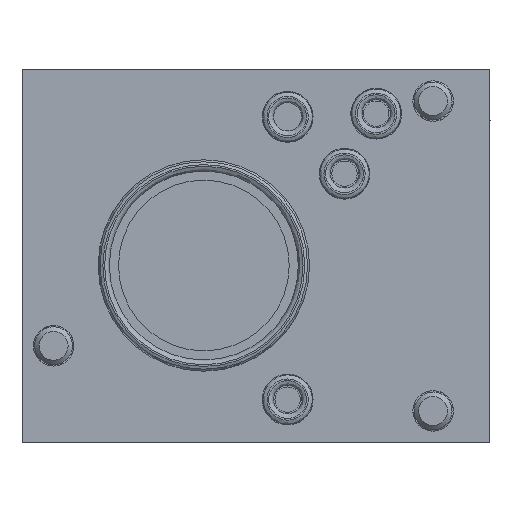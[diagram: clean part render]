
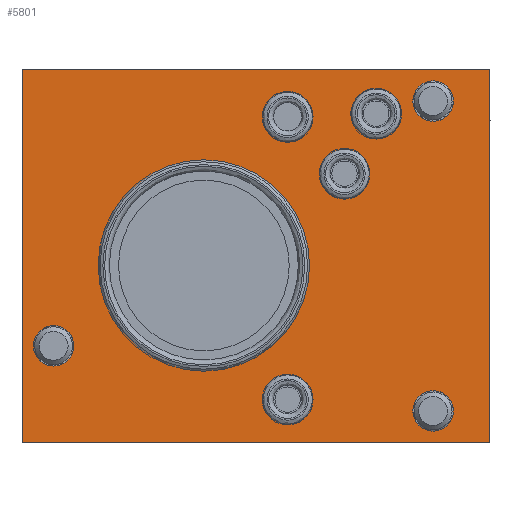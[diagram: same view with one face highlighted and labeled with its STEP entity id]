
A CAD part, left-side view. The second image highlights one B-rep face of the part: STEP entity #5801.
In plain terms, the highlighted planar face has unit normal (-1, 0, 0).
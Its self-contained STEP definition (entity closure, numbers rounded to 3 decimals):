
#650 = DIRECTION ( 'NONE',  ( 0., -1., 0. ) ) ;
#1114 = DIRECTION ( 'NONE',  ( -1., 0., 0. ) ) ;
#1461 = ORIENTED_EDGE ( 'NONE', *, *, #38656, .F. ) ;
#1669 = DIRECTION ( 'NONE',  ( 0., 0., -1. ) ) ;
#1727 = EDGE_LOOP ( 'NONE', ( #28879 ) ) ;
#1892 = ORIENTED_EDGE ( 'NONE', *, *, #23868, .F. ) ;
#2186 = EDGE_CURVE ( 'NONE', #8873, #8873, #32458, .T. ) ;
#2616 = VERTEX_POINT ( 'NONE', #10388 ) ;
#2696 = DIRECTION ( 'NONE',  ( -1., 0., 0. ) ) ;
#3261 = EDGE_CURVE ( 'NONE', #40553, #40553, #22028, .T. ) ;
#3312 = EDGE_LOOP ( 'NONE', ( #29551 ) ) ;
#3558 = CARTESIAN_POINT ( 'NONE',  ( -47., -5., 15.3 ) ) ;
#3704 = FACE_BOUND ( 'NONE', #1727, .T. ) ;
#4145 = LINE ( 'NONE', #43549, #6827 ) ;
#4629 = EDGE_CURVE ( 'NONE', #27688, #26770, #4145, .T. ) ;
#4742 = DIRECTION ( 'NONE',  ( 1., 0., 0. ) ) ;
#4772 = CARTESIAN_POINT ( 'NONE',  ( -47., 0., 59. ) ) ;
#5189 = ORIENTED_EDGE ( 'NONE', *, *, #2186, .T. ) ;
#5621 = CARTESIAN_POINT ( 'NONE',  ( -47., -56., 52. ) ) ;
#5801 = ADVANCED_FACE ( 'NONE', ( #17603, #31409, #28822, #31631, #31877, #42891, #24388, #3704, #6758 ), #7003, .F. ) ;
#5974 = CARTESIAN_POINT ( 'NONE',  ( -47., -42., 6.8 ) ) ;
#6506 = CARTESIAN_POINT ( 'NONE',  ( -47., -45.15, 28. ) ) ;
#6657 = AXIS2_PLACEMENT_3D ( 'NONE', #3558, #17917, #42517 ) ;
#6758 = FACE_OUTER_BOUND ( 'NONE', #33814, .T. ) ;
#6827 = VECTOR ( 'NONE', #15214, 1000. ) ;
#6922 = DIRECTION ( 'NONE',  ( 0., -1., 0. ) ) ;
#7003 = PLANE ( 'NONE',  #38561 ) ;
#7134 = EDGE_CURVE ( 'NONE', #27172, #27172, #36349, .T. ) ;
#7388 = EDGE_CURVE ( 'NONE', #20371, #20371, #14681, .T. ) ;
#7763 = AXIS2_PLACEMENT_3D ( 'NONE', #46304, #42787, #28953 ) ;
#7791 = EDGE_LOOP ( 'NONE', ( #35283 ) ) ;
#8873 = VERTEX_POINT ( 'NONE', #33742 ) ;
#9197 = VERTEX_POINT ( 'NONE', #38772 ) ;
#10388 = CARTESIAN_POINT ( 'NONE',  ( -47., -74., 59. ) ) ;
#11214 = CARTESIAN_POINT ( 'NONE',  ( -47., 0., 0. ) ) ;
#11492 = DIRECTION ( 'NONE',  ( -1., 0., 0. ) ) ;
#11638 = CARTESIAN_POINT ( 'NONE',  ( -47., 0., 59. ) ) ;
#11682 = CARTESIAN_POINT ( 'NONE',  ( -47., -74., 59. ) ) ;
#12469 = AXIS2_PLACEMENT_3D ( 'NONE', #5621, #41088, #30725 ) ;
#14137 = DIRECTION ( 'NONE',  ( -1., 0., 0. ) ) ;
#14681 = CIRCLE ( 'NONE', #31118, 3.9 ) ;
#15214 = DIRECTION ( 'NONE',  ( 0., -1., 0. ) ) ;
#16148 = AXIS2_PLACEMENT_3D ( 'NONE', #21600, #11492, #22058 ) ;
#16194 = CIRCLE ( 'NONE', #42385, 3.9 ) ;
#17337 = EDGE_LOOP ( 'NONE', ( #23203 ) ) ;
#17603 = FACE_BOUND ( 'NONE', #17337, .T. ) ;
#17917 = DIRECTION ( 'NONE',  ( 1., 0., 0. ) ) ;
#18982 = AXIS2_PLACEMENT_3D ( 'NONE', #39969, #4742, #1669 ) ;
#19124 = DIRECTION ( 'NONE',  ( 0., -1., 0. ) ) ;
#19180 = ORIENTED_EDGE ( 'NONE', *, *, #45587, .T. ) ;
#20070 = VERTEX_POINT ( 'NONE', #34832 ) ;
#20258 = EDGE_CURVE ( 'NONE', #20070, #20070, #45575, .T. ) ;
#20371 = VERTEX_POINT ( 'NONE', #34677 ) ;
#21600 = CARTESIAN_POINT ( 'NONE',  ( -47., -28.75, 28. ) ) ;
#21843 = DIRECTION ( 'NONE',  ( 0., -1., 0. ) ) ;
#22028 = CIRCLE ( 'NONE', #7763, 3.2 ) ;
#22058 = DIRECTION ( 'NONE',  ( 0., -1., 0. ) ) ;
#22158 = EDGE_CURVE ( 'NONE', #45379, #45379, #36579, .T. ) ;
#23203 = ORIENTED_EDGE ( 'NONE', *, *, #7388, .F. ) ;
#23868 = EDGE_CURVE ( 'NONE', #31479, #2616, #33871, .T. ) ;
#24253 = VECTOR ( 'NONE', #29724, 1000. ) ;
#24388 = FACE_BOUND ( 'NONE', #43104, .T. ) ;
#24802 = EDGE_CURVE ( 'NONE', #46073, #46073, #16194, .T. ) ;
#26718 = CARTESIAN_POINT ( 'NONE',  ( -47., -65., 50.8 ) ) ;
#26770 = VERTEX_POINT ( 'NONE', #27002 ) ;
#27002 = CARTESIAN_POINT ( 'NONE',  ( -47., -74., 0. ) ) ;
#27172 = VERTEX_POINT ( 'NONE', #6506 ) ;
#27688 = VERTEX_POINT ( 'NONE', #11214 ) ;
#28590 = DIRECTION ( 'NONE',  ( 1., 0., 0. ) ) ;
#28813 = VECTOR ( 'NONE', #39205, 1000. ) ;
#28822 = FACE_BOUND ( 'NONE', #37946, .T. ) ;
#28879 = ORIENTED_EDGE ( 'NONE', *, *, #7134, .F. ) ;
#28953 = DIRECTION ( 'NONE',  ( 0., 0., -1. ) ) ;
#29259 = LINE ( 'NONE', #11682, #24253 ) ;
#29551 = ORIENTED_EDGE ( 'NONE', *, *, #3261, .T. ) ;
#29724 = DIRECTION ( 'NONE',  ( 0., 0., -1. ) ) ;
#30725 = DIRECTION ( 'NONE',  ( 0., -1., 0. ) ) ;
#30828 = CARTESIAN_POINT ( 'NONE',  ( -47., -59.9, 52. ) ) ;
#31118 = AXIS2_PLACEMENT_3D ( 'NONE', #43599, #1114, #650 ) ;
#31409 = FACE_BOUND ( 'NONE', #40016, .T. ) ;
#31479 = VERTEX_POINT ( 'NONE', #11638 ) ;
#31631 = FACE_BOUND ( 'NONE', #7791, .T. ) ;
#31740 = CIRCLE ( 'NONE', #36244, 3.9 ) ;
#31877 = FACE_BOUND ( 'NONE', #3312, .T. ) ;
#32458 = CIRCLE ( 'NONE', #18982, 3.2 ) ;
#32467 = ORIENTED_EDGE ( 'NONE', *, *, #4629, .T. ) ;
#33126 = EDGE_LOOP ( 'NONE', ( #36839 ) ) ;
#33742 = CARTESIAN_POINT ( 'NONE',  ( -47., -65., 1.8 ) ) ;
#33814 = EDGE_LOOP ( 'NONE', ( #32467, #1461, #1892, #19180 ) ) ;
#33871 = LINE ( 'NONE', #4772, #40962 ) ;
#34677 = CARTESIAN_POINT ( 'NONE',  ( -47., -45.9, 51.5 ) ) ;
#34832 = CARTESIAN_POINT ( 'NONE',  ( -47., -5., 12.1 ) ) ;
#35164 = CARTESIAN_POINT ( 'NONE',  ( -47., 0., 59. ) ) ;
#35283 = ORIENTED_EDGE ( 'NONE', *, *, #22158, .F. ) ;
#36244 = AXIS2_PLACEMENT_3D ( 'NONE', #38979, #14137, #21843 ) ;
#36349 = CIRCLE ( 'NONE', #16148, 16.4 ) ;
#36579 = CIRCLE ( 'NONE', #12469, 3.9 ) ;
#36839 = ORIENTED_EDGE ( 'NONE', *, *, #20258, .T. ) ;
#37946 = EDGE_LOOP ( 'NONE', ( #43449 ) ) ;
#37987 = EDGE_CURVE ( 'NONE', #9197, #9197, #31740, .T. ) ;
#38561 = AXIS2_PLACEMENT_3D ( 'NONE', #35164, #28590, #45946 ) ;
#38656 = EDGE_CURVE ( 'NONE', #2616, #26770, #29259, .T. ) ;
#38772 = CARTESIAN_POINT ( 'NONE',  ( -47., -54.9, 42.5 ) ) ;
#38979 = CARTESIAN_POINT ( 'NONE',  ( -47., -51., 42.5 ) ) ;
#39205 = DIRECTION ( 'NONE',  ( 0., 0., -1. ) ) ;
#39432 = CARTESIAN_POINT ( 'NONE',  ( -47., 0., 59. ) ) ;
#39870 = ORIENTED_EDGE ( 'NONE', *, *, #37987, .F. ) ;
#39969 = CARTESIAN_POINT ( 'NONE',  ( -47., -65., 5. ) ) ;
#40016 = EDGE_LOOP ( 'NONE', ( #39870 ) ) ;
#40553 = VERTEX_POINT ( 'NONE', #26718 ) ;
#40962 = VECTOR ( 'NONE', #19124, 1000. ) ;
#41088 = DIRECTION ( 'NONE',  ( -1., 0., 0. ) ) ;
#42385 = AXIS2_PLACEMENT_3D ( 'NONE', #5974, #2696, #6922 ) ;
#42517 = DIRECTION ( 'NONE',  ( 0., 0., -1. ) ) ;
#42787 = DIRECTION ( 'NONE',  ( 1., 0., 0. ) ) ;
#42891 = FACE_BOUND ( 'NONE', #33126, .T. ) ;
#43104 = EDGE_LOOP ( 'NONE', ( #5189 ) ) ;
#43449 = ORIENTED_EDGE ( 'NONE', *, *, #24802, .F. ) ;
#43549 = CARTESIAN_POINT ( 'NONE',  ( -47., 0., 0. ) ) ;
#43599 = CARTESIAN_POINT ( 'NONE',  ( -47., -42., 51.5 ) ) ;
#45379 = VERTEX_POINT ( 'NONE', #30828 ) ;
#45575 = CIRCLE ( 'NONE', #6657, 3.2 ) ;
#45587 = EDGE_CURVE ( 'NONE', #31479, #27688, #45738, .T. ) ;
#45605 = CARTESIAN_POINT ( 'NONE',  ( -47., -45.9, 6.8 ) ) ;
#45738 = LINE ( 'NONE', #39432, #28813 ) ;
#45946 = DIRECTION ( 'NONE',  ( 0., 1., 0. ) ) ;
#46073 = VERTEX_POINT ( 'NONE', #45605 ) ;
#46304 = CARTESIAN_POINT ( 'NONE',  ( -47., -65., 54. ) ) ;
